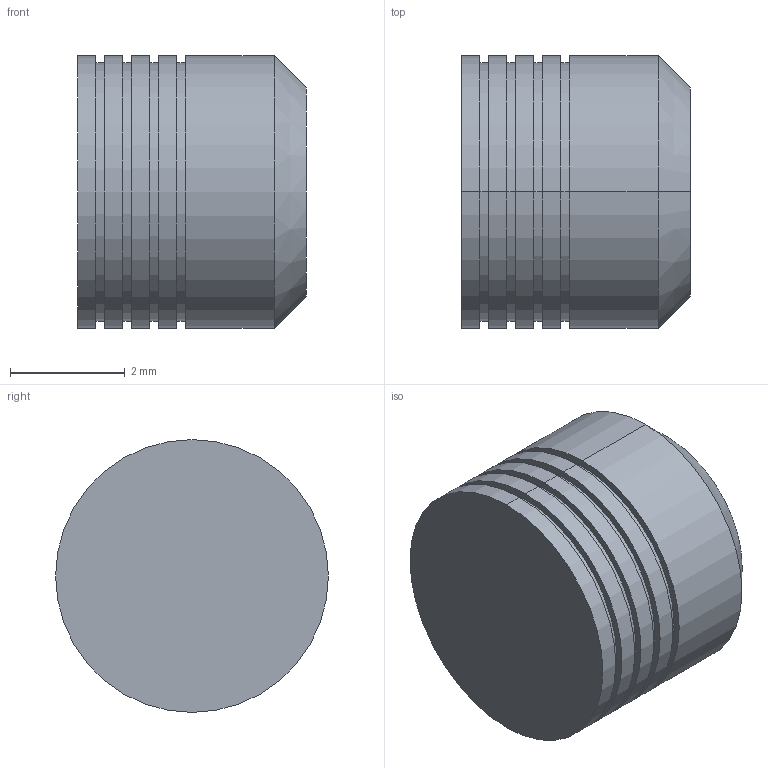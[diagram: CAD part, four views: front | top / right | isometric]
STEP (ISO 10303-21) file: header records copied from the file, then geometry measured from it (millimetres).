
FILE_DESCRIPTION (( 'STEP AP203' ), '1' );
FILE_NAME ('JELD0205200.STEP', '2025-08-13T18:24:11', ( '' ), ( '' ), 'SwSTEP 2.0', 'SolidWorks 2023', '' );
FILE_SCHEMA (( 'CONFIG_CONTROL_DESIGN' ));
Length unit declared in the file: inch
Products named in the file (1): JELD0205200
Bounding box: 3.99 x 4.76 x 4.76 mm (x, y, z)
Volume: 67.6 mm3; surface area: 104.1 mm2
Topology: 1 solids, 1 shells, 30 faces, 58 edges, 38 vertices
Faces by surface type: cylinder 18, plane 10, cone 2
Entity records: 863 total; most frequent: DIRECTION 158, CARTESIAN_POINT 127, ORIENTED_EDGE 116, AXIS2_PLACEMENT_3D 69, EDGE_CURVE 58, CIRCLE 38, EDGE_LOOP 38, VERTEX_POINT 38
